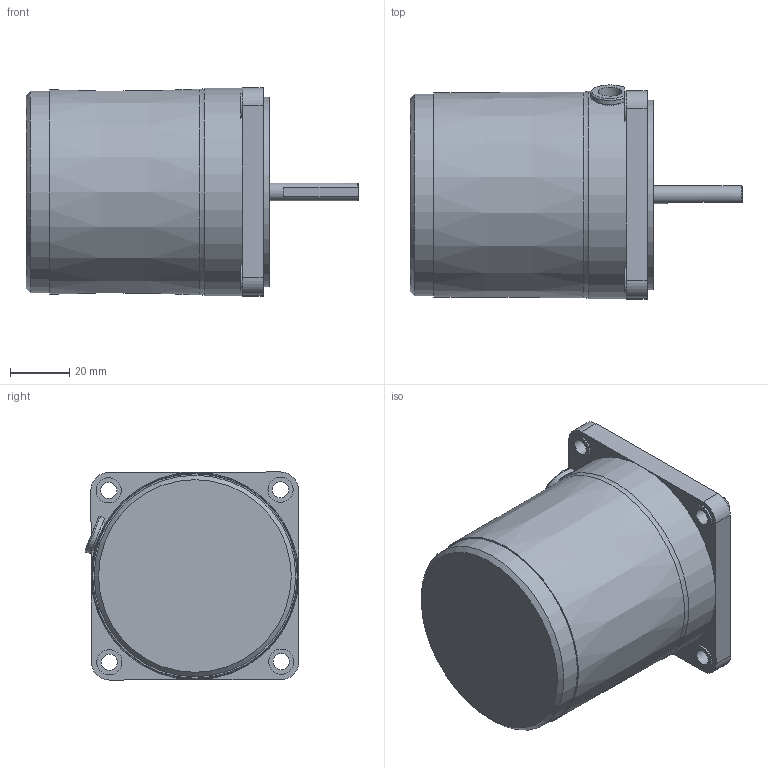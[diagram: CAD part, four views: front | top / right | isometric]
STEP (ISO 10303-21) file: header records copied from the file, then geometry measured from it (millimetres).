
FILE_DESCRIPTION((''),'2;1');
FILE_NAME('D:\김성묵\업무폴더\개발 파일\프로젝트 개발 AB등급\AC표준형 개발자료\90각 이하 표준형 개발\도면작성 자료\3D 도면\홈페이지용 3D 파일\15W MOTOR\S7I15D.stp','2015-03-25T10:54:01',('smkim'),(''),'Autodesk Inventor 2012','Autodesk Inventor 2012','');
FILE_SCHEMA(('AUTOMOTIVE_DESIGN { 1 0 10303 214 1 1 1 1 }'));
Length unit declared in the file: millimetre
Products named in the file (4): S7I15D; S7I15GㅁCE; S7_HOUSING D; 6_CORD BUSH
Assembly tree (3 placements, depth 2):
  S7I15D
    S7I15GㅁCE
    S7_HOUSING D
    6_CORD BUSH
Bounding box: 112 x 72.18 x 70.2 mm (x, y, z)
Volume: 305665.8 mm3; surface area: 38233.3 mm2
Topology: 3 solids, 3 shells, 85 faces, 208 edges, 137 vertices
Faces by surface type: plane 49, cylinder 29, cone 5, torus 2
Full cylindrical faces by diameter (mm): 5.5 x4, 6 x1, 8 x1, 8.5 x4, 10 x1, 28 x1, 64 x1, 68 x1, 70 x1
Entity records: 2569 total; most frequent: CARTESIAN_POINT 475, DIRECTION 438, ORIENTED_EDGE 370, EDGE_CURVE 185, AXIS2_PLACEMENT_3D 171, VERTEX_POINT 133, EDGE_LOOP 126, VECTOR 96
